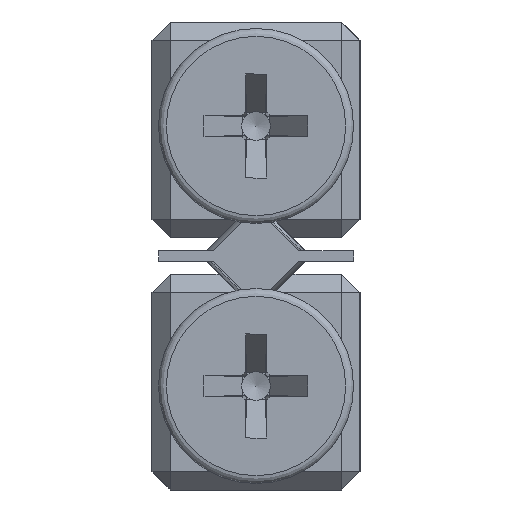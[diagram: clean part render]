
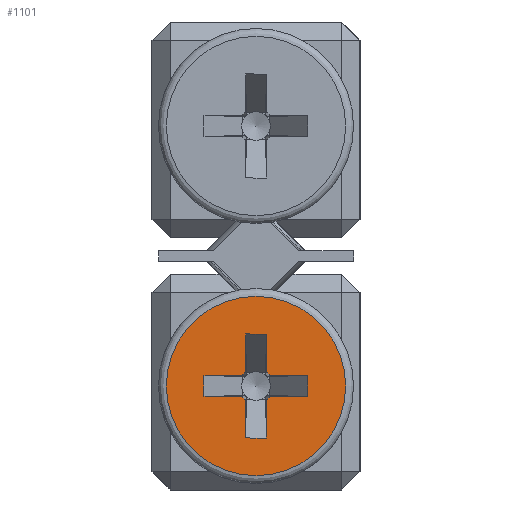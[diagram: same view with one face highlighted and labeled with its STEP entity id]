
A CAD part, left-side view. The second image highlights one B-rep face of the part: STEP entity #1101.
In plain terms, the highlighted planar face has unit normal (-1, 0, 0).
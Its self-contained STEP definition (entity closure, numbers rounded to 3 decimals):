
#88 = ORIENTED_EDGE ( 'NONE', *, *, #10621, .F. ) ;
#418 = CARTESIAN_POINT ( 'NONE',  ( -114.5, 0.4, 6. ) ) ;
#426 = DIRECTION ( 'NONE',  ( 0., 1., 0. ) ) ;
#584 = VERTEX_POINT ( 'NONE', #5292 ) ;
#645 = CARTESIAN_POINT ( 'NONE',  ( -114.5, -0.4, 2. ) ) ;
#747 = EDGE_CURVE ( 'NONE', #16264, #22098, #8389, .T. ) ;
#895 = EDGE_CURVE ( 'NONE', #11693, #8490, #11329, .T. ) ;
#1101 = ADVANCED_FACE ( 'NONE', ( #18936, #10185 ), #17010, .F. ) ;
#1263 = VECTOR ( 'NONE', #23734, 1000. ) ;
#1303 = CARTESIAN_POINT ( 'NONE',  ( -114.5, 0.548, 3.6 ) ) ;
#1345 = CARTESIAN_POINT ( 'NONE',  ( -114.5, 0., 0.55 ) ) ;
#1699 = LINE ( 'NONE', #22394, #11051 ) ;
#1799 = VERTEX_POINT ( 'NONE', #21796 ) ;
#1900 = VERTEX_POINT ( 'NONE', #21649 ) ;
#1956 = DIRECTION ( 'NONE',  ( -1., 0., 0. ) ) ;
#2262 = DIRECTION ( 'NONE',  ( 0., 0., 1. ) ) ;
#2423 = CARTESIAN_POINT ( 'NONE',  ( -114.5, 0.548, 4.4 ) ) ;
#2439 = VERTEX_POINT ( 'NONE', #19207 ) ;
#3307 = VERTEX_POINT ( 'NONE', #20265 ) ;
#3381 = EDGE_CURVE ( 'NONE', #1900, #7060, #25430, .T. ) ;
#3923 = DIRECTION ( 'NONE',  ( -1., 0., 0. ) ) ;
#4115 = LINE ( 'NONE', #22176, #11989 ) ;
#4642 = CIRCLE ( 'NONE', #19777, 3.45 ) ;
#4719 = CARTESIAN_POINT ( 'NONE',  ( -114.5, -0.4, 6. ) ) ;
#4811 = CARTESIAN_POINT ( 'NONE',  ( -114.5, 0.4, 2. ) ) ;
#5170 = EDGE_CURVE ( 'NONE', #3307, #7060, #13503, .T. ) ;
#5292 = CARTESIAN_POINT ( 'NONE',  ( -114.5, -2., 4.4 ) ) ;
#5399 = EDGE_CURVE ( 'NONE', #23399, #23843, #27729, .T. ) ;
#5823 = CARTESIAN_POINT ( 'NONE',  ( -114.5, 0., 4. ) ) ;
#5900 = LINE ( 'NONE', #14782, #26732 ) ;
#6078 = DIRECTION ( 'NONE',  ( -1., 0., 0. ) ) ;
#6200 = DIRECTION ( 'NONE',  ( 0., 0., -1. ) ) ;
#6385 = ORIENTED_EDGE ( 'NONE', *, *, #23579, .F. ) ;
#6392 = DIRECTION ( 'NONE',  ( 0., 0., 1. ) ) ;
#6518 = LINE ( 'NONE', #13316, #23482 ) ;
#7060 = VERTEX_POINT ( 'NONE', #418 ) ;
#7400 = LINE ( 'NONE', #21036, #11716 ) ;
#7500 = AXIS2_PLACEMENT_3D ( 'NONE', #26677, #1956, #6392 ) ;
#7529 = DIRECTION ( 'NONE',  ( 0., 0., -1. ) ) ;
#7750 = CARTESIAN_POINT ( 'NONE',  ( -114.5, -0.4, 6. ) ) ;
#8017 = LINE ( 'NONE', #13182, #10244 ) ;
#8210 = CARTESIAN_POINT ( 'NONE',  ( -114.5, 0., 4. ) ) ;
#8293 = DIRECTION ( 'NONE',  ( 0., 0., 1. ) ) ;
#8389 = LINE ( 'NONE', #26739, #9958 ) ;
#8480 = DIRECTION ( 'NONE',  ( -1., 0., 0. ) ) ;
#8490 = VERTEX_POINT ( 'NONE', #645 ) ;
#9434 = VERTEX_POINT ( 'NONE', #16508 ) ;
#9752 = DIRECTION ( 'NONE',  ( 1., 0., 0. ) ) ;
#9958 = VECTOR ( 'NONE', #21864, 1000. ) ;
#10032 = CARTESIAN_POINT ( 'NONE',  ( -114.5, -2., 3.6 ) ) ;
#10185 = FACE_BOUND ( 'NONE', #10819, .T. ) ;
#10244 = VECTOR ( 'NONE', #10374, 1000. ) ;
#10252 = DIRECTION ( 'NONE',  ( 0., 0., -1. ) ) ;
#10342 = ORIENTED_EDGE ( 'NONE', *, *, #20402, .T. ) ;
#10374 = DIRECTION ( 'NONE',  ( 0., 0., -1. ) ) ;
#10501 = EDGE_CURVE ( 'NONE', #1799, #8490, #25536, .T. ) ;
#10538 = CARTESIAN_POINT ( 'NONE',  ( -114.5, 0., 4. ) ) ;
#10562 = ORIENTED_EDGE ( 'NONE', *, *, #10961, .F. ) ;
#10571 = ORIENTED_EDGE ( 'NONE', *, *, #10501, .T. ) ;
#10621 = EDGE_CURVE ( 'NONE', #3307, #24662, #21599, .T. ) ;
#10819 = EDGE_LOOP ( 'NONE', ( #6385, #10571, #23763, #27094, #19821, #22908, #10562, #25712, #88, #21451, #27667, #19392, #23714, #22186, #23123, #21516 ) ) ;
#10961 = EDGE_CURVE ( 'NONE', #9434, #22098, #8017, .T. ) ;
#11051 = VECTOR ( 'NONE', #21825, 1000. ) ;
#11160 = EDGE_CURVE ( 'NONE', #23399, #584, #6518, .T. ) ;
#11329 = LINE ( 'NONE', #4811, #18949 ) ;
#11693 = VERTEX_POINT ( 'NONE', #22576 ) ;
#11716 = VECTOR ( 'NONE', #27403, 1000. ) ;
#11989 = VECTOR ( 'NONE', #24666, 1000. ) ;
#12655 = EDGE_CURVE ( 'NONE', #23557, #584, #25748, .T. ) ;
#12779 = CARTESIAN_POINT ( 'NONE',  ( -114.5, -0.548, 3.6 ) ) ;
#13182 = CARTESIAN_POINT ( 'NONE',  ( -114.5, 2., 4.4 ) ) ;
#13316 = CARTESIAN_POINT ( 'NONE',  ( -114.5, 2., 4.4 ) ) ;
#13503 = LINE ( 'NONE', #22542, #18723 ) ;
#14166 = VERTEX_POINT ( 'NONE', #12779 ) ;
#14276 = EDGE_CURVE ( 'NONE', #11693, #2439, #1699, .T. ) ;
#14485 = EDGE_CURVE ( 'NONE', #1900, #23843, #5900, .T. ) ;
#14782 = CARTESIAN_POINT ( 'NONE',  ( -114.5, -0.4, 6. ) ) ;
#16264 = VERTEX_POINT ( 'NONE', #1303 ) ;
#16508 = CARTESIAN_POINT ( 'NONE',  ( -114.5, 2., 4.4 ) ) ;
#17010 = PLANE ( 'NONE',  #26587 ) ;
#17248 = DIRECTION ( 'NONE',  ( 0., 0., 1. ) ) ;
#17319 = AXIS2_PLACEMENT_3D ( 'NONE', #5823, #21242, #27905 ) ;
#17505 = CARTESIAN_POINT ( 'NONE',  ( -114.5, -2., 3.6 ) ) ;
#17795 = AXIS2_PLACEMENT_3D ( 'NONE', #21482, #6078, #8293 ) ;
#18061 = DIRECTION ( 'NONE',  ( 0., -1., 0. ) ) ;
#18723 = VECTOR ( 'NONE', #2262, 1000. ) ;
#18936 = FACE_OUTER_BOUND ( 'NONE', #27906, .T. ) ;
#18949 = VECTOR ( 'NONE', #22741, 1000. ) ;
#19188 = EDGE_CURVE ( 'NONE', #16264, #2439, #25695, .T. ) ;
#19207 = CARTESIAN_POINT ( 'NONE',  ( -114.5, 0.4, 3.452 ) ) ;
#19346 = CIRCLE ( 'NONE', #7500, 0.678 ) ;
#19392 = ORIENTED_EDGE ( 'NONE', *, *, #14485, .T. ) ;
#19777 = AXIS2_PLACEMENT_3D ( 'NONE', #10538, #8480, #10252 ) ;
#19821 = ORIENTED_EDGE ( 'NONE', *, *, #19188, .F. ) ;
#19904 = EDGE_CURVE ( 'NONE', #9434, #24662, #4115, .T. ) ;
#20265 = CARTESIAN_POINT ( 'NONE',  ( -114.5, 0.4, 4.548 ) ) ;
#20402 = EDGE_CURVE ( 'NONE', #21628, #21628, #4642, .T. ) ;
#21036 = CARTESIAN_POINT ( 'NONE',  ( -114.5, -2., 3.6 ) ) ;
#21242 = DIRECTION ( 'NONE',  ( -1., 0., 0. ) ) ;
#21419 = VECTOR ( 'NONE', #426, 1000. ) ;
#21451 = ORIENTED_EDGE ( 'NONE', *, *, #5170, .T. ) ;
#21482 = CARTESIAN_POINT ( 'NONE',  ( -114.5, 0., 4. ) ) ;
#21516 = ORIENTED_EDGE ( 'NONE', *, *, #26098, .T. ) ;
#21599 = CIRCLE ( 'NONE', #17319, 0.678 ) ;
#21628 = VERTEX_POINT ( 'NONE', #1345 ) ;
#21649 = CARTESIAN_POINT ( 'NONE',  ( -114.5, -0.4, 6. ) ) ;
#21796 = CARTESIAN_POINT ( 'NONE',  ( -114.5, -0.4, 3.452 ) ) ;
#21825 = DIRECTION ( 'NONE',  ( 0., 0., 1. ) ) ;
#21864 = DIRECTION ( 'NONE',  ( 0., 1., 0. ) ) ;
#22098 = VERTEX_POINT ( 'NONE', #24191 ) ;
#22176 = CARTESIAN_POINT ( 'NONE',  ( -114.5, 2., 4.4 ) ) ;
#22186 = ORIENTED_EDGE ( 'NONE', *, *, #11160, .T. ) ;
#22394 = CARTESIAN_POINT ( 'NONE',  ( -114.5, 0.4, 2. ) ) ;
#22542 = CARTESIAN_POINT ( 'NONE',  ( -114.5, 0.4, 2. ) ) ;
#22576 = CARTESIAN_POINT ( 'NONE',  ( -114.5, 0.4, 2. ) ) ;
#22741 = DIRECTION ( 'NONE',  ( 0., -1., 0. ) ) ;
#22823 = CARTESIAN_POINT ( 'NONE',  ( -114.5, -0.4, 4.548 ) ) ;
#22908 = ORIENTED_EDGE ( 'NONE', *, *, #747, .T. ) ;
#23123 = ORIENTED_EDGE ( 'NONE', *, *, #12655, .F. ) ;
#23399 = VERTEX_POINT ( 'NONE', #25223 ) ;
#23482 = VECTOR ( 'NONE', #18061, 1000. ) ;
#23557 = VERTEX_POINT ( 'NONE', #17505 ) ;
#23579 = EDGE_CURVE ( 'NONE', #1799, #14166, #19346, .T. ) ;
#23714 = ORIENTED_EDGE ( 'NONE', *, *, #5399, .F. ) ;
#23734 = DIRECTION ( 'NONE',  ( 0., 0., -1. ) ) ;
#23763 = ORIENTED_EDGE ( 'NONE', *, *, #895, .F. ) ;
#23843 = VERTEX_POINT ( 'NONE', #22823 ) ;
#24191 = CARTESIAN_POINT ( 'NONE',  ( -114.5, 2., 3.6 ) ) ;
#24662 = VERTEX_POINT ( 'NONE', #2423 ) ;
#24666 = DIRECTION ( 'NONE',  ( 0., -1., 0. ) ) ;
#25223 = CARTESIAN_POINT ( 'NONE',  ( -114.5, -0.548, 4.4 ) ) ;
#25430 = LINE ( 'NONE', #4719, #21419 ) ;
#25536 = LINE ( 'NONE', #7750, #1263 ) ;
#25695 = CIRCLE ( 'NONE', #28514, 0.678 ) ;
#25712 = ORIENTED_EDGE ( 'NONE', *, *, #19904, .T. ) ;
#25725 = VECTOR ( 'NONE', #26036, 1000. ) ;
#25748 = LINE ( 'NONE', #10032, #25725 ) ;
#26036 = DIRECTION ( 'NONE',  ( 0., 0., 1. ) ) ;
#26098 = EDGE_CURVE ( 'NONE', #23557, #14166, #7400, .T. ) ;
#26587 = AXIS2_PLACEMENT_3D ( 'NONE', #27824, #9752, #7529 ) ;
#26677 = CARTESIAN_POINT ( 'NONE',  ( -114.5, 0., 4. ) ) ;
#26732 = VECTOR ( 'NONE', #6200, 1000. ) ;
#26739 = CARTESIAN_POINT ( 'NONE',  ( -114.5, -2., 3.6 ) ) ;
#27094 = ORIENTED_EDGE ( 'NONE', *, *, #14276, .T. ) ;
#27403 = DIRECTION ( 'NONE',  ( 0., 1., 0. ) ) ;
#27667 = ORIENTED_EDGE ( 'NONE', *, *, #3381, .F. ) ;
#27729 = CIRCLE ( 'NONE', #17795, 0.678 ) ;
#27824 = CARTESIAN_POINT ( 'NONE',  ( -114.5, 3.75, 4. ) ) ;
#27905 = DIRECTION ( 'NONE',  ( 0., 0., 1. ) ) ;
#27906 = EDGE_LOOP ( 'NONE', ( #10342 ) ) ;
#28514 = AXIS2_PLACEMENT_3D ( 'NONE', #8210, #3923, #17248 ) ;
